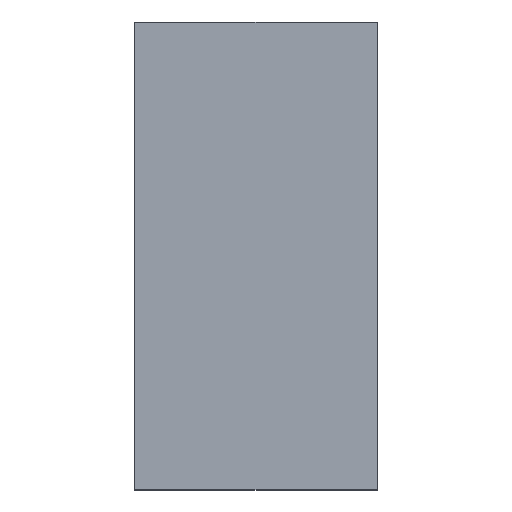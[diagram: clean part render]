
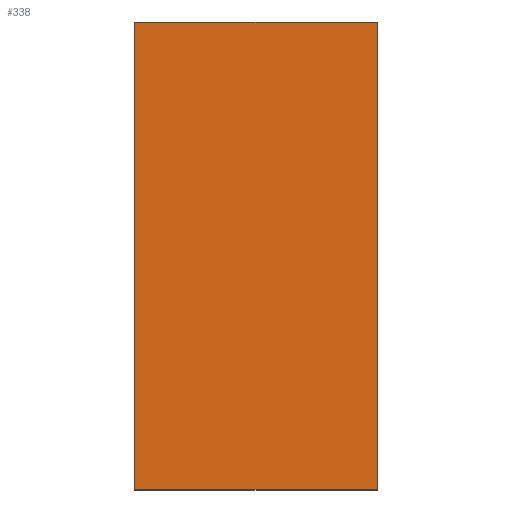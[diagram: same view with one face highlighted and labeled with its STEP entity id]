
A CAD part, top view. The second image highlights one B-rep face of the part: STEP entity #338.
In plain terms, the highlighted planar face has unit normal (0, 0, 1).
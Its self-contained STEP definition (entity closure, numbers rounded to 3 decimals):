
#24 = VERTEX_POINT('',#25);
#25 = CARTESIAN_POINT('',(-126.,-29.,0.));
#32 = PLANE('',#33);
#33 = AXIS2_PLACEMENT_3D('',#34,#35,#36);
#34 = CARTESIAN_POINT('',(-126.,-29.,-1.));
#35 = DIRECTION('',(1.,0.,-0.));
#36 = DIRECTION('',(0.,0.,1.));
#44 = PLANE('',#45);
#45 = AXIS2_PLACEMENT_3D('',#46,#47,#48);
#46 = CARTESIAN_POINT('',(-126.,-29.,-1.));
#47 = DIRECTION('',(-0.,1.,0.));
#48 = DIRECTION('',(0.,0.,1.));
#85 = VERTEX_POINT('',#86);
#86 = CARTESIAN_POINT('',(-126.,29.,0.));
#100 = PLANE('',#101);
#101 = AXIS2_PLACEMENT_3D('',#102,#103,#104);
#102 = CARTESIAN_POINT('',(-126.,29.,-1.));
#103 = DIRECTION('',(-0.,1.,0.));
#104 = DIRECTION('',(0.,0.,1.));
#112 = EDGE_CURVE('',#24,#85,#113,.T.);
#113 = SURFACE_CURVE('',#114,(#118,#125),.PCURVE_S1.);
#114 = LINE('',#115,#116);
#115 = CARTESIAN_POINT('',(-126.,-29.,0.));
#116 = VECTOR('',#117,1.);
#117 = DIRECTION('',(-0.,1.,0.));
#118 = PCURVE('',#32,#119);
#119 = DEFINITIONAL_REPRESENTATION('',(#120),#124);
#120 = LINE('',#121,#122);
#121 = CARTESIAN_POINT('',(1.,0.));
#122 = VECTOR('',#123,1.);
#123 = DIRECTION('',(0.,-1.));
#124 = ( GEOMETRIC_REPRESENTATION_CONTEXT(2) 
PARAMETRIC_REPRESENTATION_CONTEXT() REPRESENTATION_CONTEXT('2D SPACE',''
  ) );
#125 = PCURVE('',#126,#131);
#126 = PLANE('',#127);
#127 = AXIS2_PLACEMENT_3D('',#128,#129,#130);
#128 = CARTESIAN_POINT('',(-126.,-29.,0.));
#129 = DIRECTION('',(0.,0.,1.));
#130 = DIRECTION('',(1.,0.,-0.));
#131 = DEFINITIONAL_REPRESENTATION('',(#132),#136);
#132 = LINE('',#133,#134);
#133 = CARTESIAN_POINT('',(0.,0.));
#134 = VECTOR('',#135,1.);
#135 = DIRECTION('',(0.,1.));
#136 = ( GEOMETRIC_REPRESENTATION_CONTEXT(2) 
PARAMETRIC_REPRESENTATION_CONTEXT() REPRESENTATION_CONTEXT('2D SPACE',''
  ) );
#144 = VERTEX_POINT('',#145);
#145 = CARTESIAN_POINT('',(-96.,-29.,0.));
#152 = PLANE('',#153);
#153 = AXIS2_PLACEMENT_3D('',#154,#155,#156);
#154 = CARTESIAN_POINT('',(-96.,-29.,-1.));
#155 = DIRECTION('',(1.,0.,-0.));
#156 = DIRECTION('',(0.,0.,1.));
#195 = VERTEX_POINT('',#196);
#196 = CARTESIAN_POINT('',(-96.,29.,0.));
#217 = EDGE_CURVE('',#144,#195,#218,.T.);
#218 = SURFACE_CURVE('',#219,(#223,#230),.PCURVE_S1.);
#219 = LINE('',#220,#221);
#220 = CARTESIAN_POINT('',(-96.,-29.,0.));
#221 = VECTOR('',#222,1.);
#222 = DIRECTION('',(-0.,1.,0.));
#223 = PCURVE('',#152,#224);
#224 = DEFINITIONAL_REPRESENTATION('',(#225),#229);
#225 = LINE('',#226,#227);
#226 = CARTESIAN_POINT('',(1.,0.));
#227 = VECTOR('',#228,1.);
#228 = DIRECTION('',(0.,-1.));
#229 = ( GEOMETRIC_REPRESENTATION_CONTEXT(2) 
PARAMETRIC_REPRESENTATION_CONTEXT() REPRESENTATION_CONTEXT('2D SPACE',''
  ) );
#230 = PCURVE('',#126,#231);
#231 = DEFINITIONAL_REPRESENTATION('',(#232),#236);
#232 = LINE('',#233,#234);
#233 = CARTESIAN_POINT('',(30.,0.));
#234 = VECTOR('',#235,1.);
#235 = DIRECTION('',(0.,1.));
#236 = ( GEOMETRIC_REPRESENTATION_CONTEXT(2) 
PARAMETRIC_REPRESENTATION_CONTEXT() REPRESENTATION_CONTEXT('2D SPACE',''
  ) );
#263 = EDGE_CURVE('',#24,#144,#264,.T.);
#264 = SURFACE_CURVE('',#265,(#269,#276),.PCURVE_S1.);
#265 = LINE('',#266,#267);
#266 = CARTESIAN_POINT('',(-126.,-29.,0.));
#267 = VECTOR('',#268,1.);
#268 = DIRECTION('',(1.,0.,-0.));
#269 = PCURVE('',#44,#270);
#270 = DEFINITIONAL_REPRESENTATION('',(#271),#275);
#271 = LINE('',#272,#273);
#272 = CARTESIAN_POINT('',(1.,0.));
#273 = VECTOR('',#274,1.);
#274 = DIRECTION('',(0.,1.));
#275 = ( GEOMETRIC_REPRESENTATION_CONTEXT(2) 
PARAMETRIC_REPRESENTATION_CONTEXT() REPRESENTATION_CONTEXT('2D SPACE',''
  ) );
#276 = PCURVE('',#126,#277);
#277 = DEFINITIONAL_REPRESENTATION('',(#278),#282);
#278 = LINE('',#279,#280);
#279 = CARTESIAN_POINT('',(0.,0.));
#280 = VECTOR('',#281,1.);
#281 = DIRECTION('',(1.,0.));
#282 = ( GEOMETRIC_REPRESENTATION_CONTEXT(2) 
PARAMETRIC_REPRESENTATION_CONTEXT() REPRESENTATION_CONTEXT('2D SPACE',''
  ) );
#310 = EDGE_CURVE('',#85,#195,#311,.T.);
#311 = SURFACE_CURVE('',#312,(#316,#323),.PCURVE_S1.);
#312 = LINE('',#313,#314);
#313 = CARTESIAN_POINT('',(-126.,29.,0.));
#314 = VECTOR('',#315,1.);
#315 = DIRECTION('',(1.,0.,-0.));
#316 = PCURVE('',#100,#317);
#317 = DEFINITIONAL_REPRESENTATION('',(#318),#322);
#318 = LINE('',#319,#320);
#319 = CARTESIAN_POINT('',(1.,0.));
#320 = VECTOR('',#321,1.);
#321 = DIRECTION('',(0.,1.));
#322 = ( GEOMETRIC_REPRESENTATION_CONTEXT(2) 
PARAMETRIC_REPRESENTATION_CONTEXT() REPRESENTATION_CONTEXT('2D SPACE',''
  ) );
#323 = PCURVE('',#126,#324);
#324 = DEFINITIONAL_REPRESENTATION('',(#325),#329);
#325 = LINE('',#326,#327);
#326 = CARTESIAN_POINT('',(0.,58.));
#327 = VECTOR('',#328,1.);
#328 = DIRECTION('',(1.,0.));
#329 = ( GEOMETRIC_REPRESENTATION_CONTEXT(2) 
PARAMETRIC_REPRESENTATION_CONTEXT() REPRESENTATION_CONTEXT('2D SPACE',''
  ) );
#338 = ADVANCED_FACE('',(#339),#126,.T.);
#339 = FACE_BOUND('',#340,.T.);
#340 = EDGE_LOOP('',(#341,#342,#343,#344));
#341 = ORIENTED_EDGE('',*,*,#112,.F.);
#342 = ORIENTED_EDGE('',*,*,#263,.T.);
#343 = ORIENTED_EDGE('',*,*,#217,.T.);
#344 = ORIENTED_EDGE('',*,*,#310,.F.);
